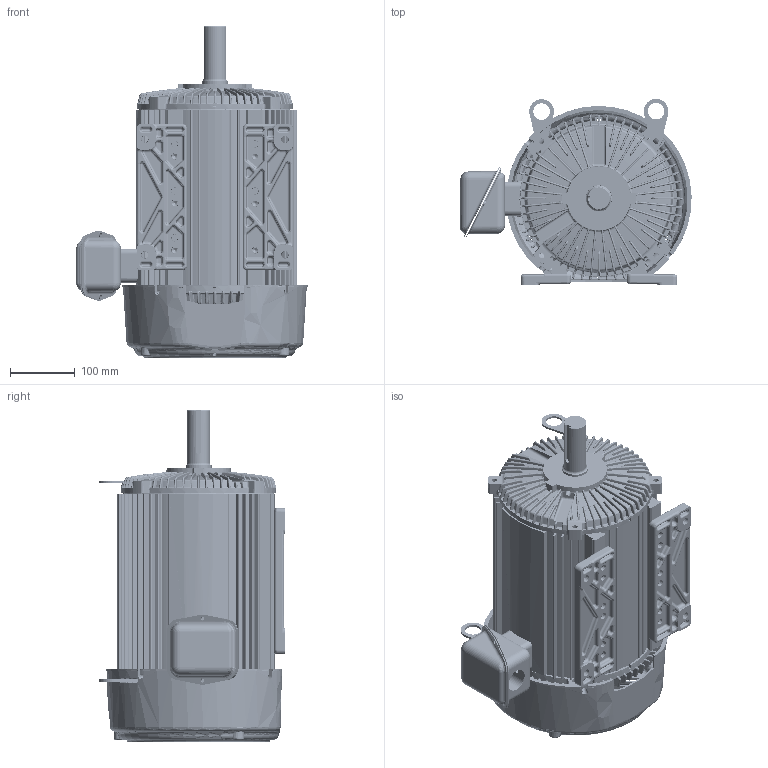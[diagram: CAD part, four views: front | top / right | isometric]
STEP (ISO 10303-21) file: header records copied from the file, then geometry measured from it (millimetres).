
FILE_DESCRIPTION((''),'2;1');
FILE_NAME('STD_LONG_NON_FLNG_ASM','2013-09-25T',('emd2341'),('Nidec Motor Corporation'),'PRO/ENGINEER BY PARAMETRIC TECHNOLOGY CORPORATION, 2013150','PRO/ENGINEER BY PARAMETRIC TECHNOLOGY CORPORATION, 2013150','');
FILE_SCHEMA(('CONFIG_CONTROL_DESIGN'));
Length unit declared in the file: inch
Products named in the file (16): 0392317_AF0; 0375083-BKT_AF1; 0361252_AF0; 0375084_ASM; 0373936-BKT_AF0; 0910265_AF0; 1001092-OP13_ASM; 0362111; 0345787; 0364714; 0390920; 0390408; 0390417; 0376890; 0361369; STD_LONG_NON_FLNG_ASM
Assembly tree (17 placements, depth 3):
  STD_LONG_NON_FLNG_ASM
    0392317_AF0
    0375084_ASM
      0375083-BKT_AF1
      0361252_AF0
    1001092-OP13_ASM
      0373936-BKT_AF0
      0910265_AF0
    0362111
    0345787
    0364714
    0390920
    0390408
    0390417
    0376890  x2
    0361369  x2
Bounding box: 356.12 x 286.05 x 511.16 mm (x, y, z)
Volume: 4028198.3 mm3; surface area: 1556453.8 mm2
Topology: 17 solids, 17 shells, 6883 faces, 16820 edges, 9888 vertices
Faces by surface type: bspline 2516, cylinder 1454, plane 1425, torus 658, cone 552, sphere 278
Entity records: 315398 total; most frequent: CARTESIAN_POINT 184266, ORIENTED_EDGE 31260, DIRECTION 22474, EDGE_CURVE 15630, AXIS2_PLACEMENT_3D 9479, VERTEX_POINT 9252, B_SPLINE_CURVE_WITH_KNOTS 6683, EDGE_LOOP 6574
